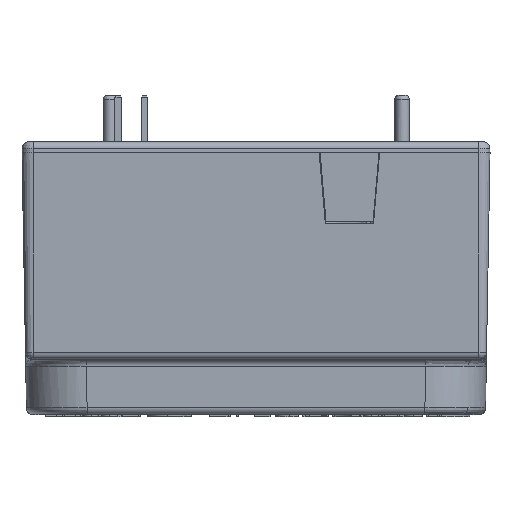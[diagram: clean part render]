
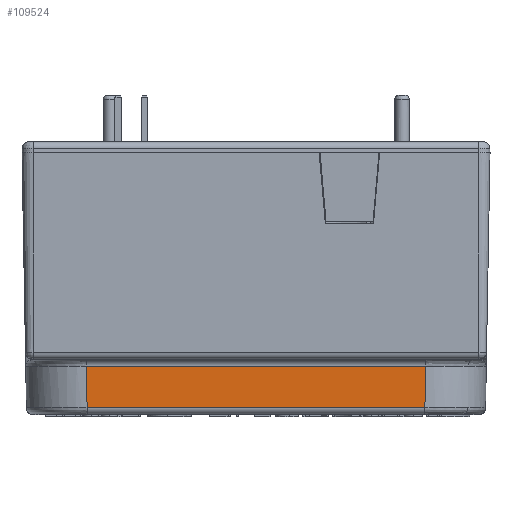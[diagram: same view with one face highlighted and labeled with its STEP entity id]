
A CAD part, top view. The second image highlights one B-rep face of the part: STEP entity #109524.
In plain terms, the highlighted planar face has unit normal (0, -0.018, 1).
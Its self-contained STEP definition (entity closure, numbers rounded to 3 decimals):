
#57246 = CYLINDRICAL_SURFACE('',#57247,4.4);
#57247 = AXIS2_PLACEMENT_3D('',#57248,#57249,#57250);
#57248 = CARTESIAN_POINT('',(12.424,15.059,
    45.861));
#57249 = DIRECTION('',(0.017,-1.,
    -0.017));
#57250 = DIRECTION('',(0.,0.017,
    -1.));
#57593 = CYLINDRICAL_SURFACE('',#57594,0.5);
#57594 = AXIS2_PLACEMENT_3D('',#57595,#57596,#57597);
#57595 = CARTESIAN_POINT('',(7.765,14.401,
    50.75));
#57596 = DIRECTION('',(1.,0.,0.));
#57597 = DIRECTION('',(0.,0.,-1.));
#59695 = CYLINDRICAL_SURFACE('',#59696,4.4);
#59696 = AXIS2_PLACEMENT_3D('',#59697,#59698,#59699);
#59697 = CARTESIAN_POINT('',(37.036,14.467,
    45.85));
#59698 = DIRECTION('',(0.017,1.,
    0.017));
#59699 = DIRECTION('',(-1.,0.017,
    0.));
#64732 = CYLINDRICAL_SURFACE('',#64733,0.5);
#64733 = AXIS2_PLACEMENT_3D('',#64734,#64735,#64736);
#64734 = CARTESIAN_POINT('',(7.765,11.431,
    49.698));
#64735 = DIRECTION('',(1.,0.,0.));
#64736 = DIRECTION('',(0.,0.,-1.));
#87467 = EDGE_CURVE('',#87468,#87470,#87472,.T.);
#87468 = VERTEX_POINT('',#87469);
#87469 = CARTESIAN_POINT('',(12.434,14.409,
    50.25));
#87470 = VERTEX_POINT('',#87471);
#87471 = CARTESIAN_POINT('',(12.487,11.422,
    50.198));
#87472 = SURFACE_CURVE('',#87473,(#87477,#87484),.PCURVE_S1.);
#87473 = LINE('',#87474,#87475);
#87474 = CARTESIAN_POINT('',(12.494,11.008,
    50.191));
#87475 = VECTOR('',#87476,1.);
#87476 = DIRECTION('',(0.017,-1.,
    -0.017));
#87477 = PCURVE('',#57246,#87478);
#87478 = DEFINITIONAL_REPRESENTATION('',(#87479),#87483);
#87479 = LINE('',#87480,#87481);
#87480 = CARTESIAN_POINT('',(3.142,3.976));
#87481 = VECTOR('',#87482,1.);
#87482 = DIRECTION('',(0.,1.));
#87483 = ( GEOMETRIC_REPRESENTATION_CONTEXT(2) 
PARAMETRIC_REPRESENTATION_CONTEXT() REPRESENTATION_CONTEXT('2D SPACE',''
  ) );
#87484 = PCURVE('',#87485,#87490);
#87485 = PLANE('',#87486);
#87486 = AXIS2_PLACEMENT_3D('',#87487,#87488,#87489);
#87487 = CARTESIAN_POINT('',(7.765,14.901,
    50.258));
#87488 = DIRECTION('',(0.,-0.017,1.));
#87489 = DIRECTION('',(0.,-1.,-0.017));
#87490 = DEFINITIONAL_REPRESENTATION('',(#87491),#87495);
#87491 = LINE('',#87492,#87493);
#87492 = CARTESIAN_POINT('',(3.894,4.728));
#87493 = VECTOR('',#87494,1.);
#87494 = DIRECTION('',(1.,0.017));
#87495 = ( GEOMETRIC_REPRESENTATION_CONTEXT(2) 
PARAMETRIC_REPRESENTATION_CONTEXT() REPRESENTATION_CONTEXT('2D SPACE',''
  ) );
#87788 = VERTEX_POINT('',#87789);
#87789 = CARTESIAN_POINT('',(37.036,14.409,
    50.25));
#87833 = EDGE_CURVE('',#87788,#87468,#87834,.T.);
#87834 = SURFACE_CURVE('',#87835,(#87839,#87846),.PCURVE_S1.);
#87835 = LINE('',#87836,#87837);
#87836 = CARTESIAN_POINT('',(12.426,14.409,
    50.25));
#87837 = VECTOR('',#87838,1.);
#87838 = DIRECTION('',(-1.,0.,0.));
#87839 = PCURVE('',#57593,#87840);
#87840 = DEFINITIONAL_REPRESENTATION('',(#87841),#87845);
#87841 = LINE('',#87842,#87843);
#87842 = CARTESIAN_POINT('',(0.017,4.66));
#87843 = VECTOR('',#87844,1.);
#87844 = DIRECTION('',(0.,-1.));
#87845 = ( GEOMETRIC_REPRESENTATION_CONTEXT(2) 
PARAMETRIC_REPRESENTATION_CONTEXT() REPRESENTATION_CONTEXT('2D SPACE',''
  ) );
#87846 = PCURVE('',#87485,#87847);
#87847 = DEFINITIONAL_REPRESENTATION('',(#87848),#87852);
#87848 = LINE('',#87849,#87850);
#87849 = CARTESIAN_POINT('',(0.491,4.66));
#87850 = VECTOR('',#87851,1.);
#87851 = DIRECTION('',(-0.,-1.));
#87852 = ( GEOMETRIC_REPRESENTATION_CONTEXT(2) 
PARAMETRIC_REPRESENTATION_CONTEXT() REPRESENTATION_CONTEXT('2D SPACE',''
  ) );
#89622 = EDGE_CURVE('',#89623,#87788,#89625,.T.);
#89623 = VERTEX_POINT('',#89624);
#89624 = CARTESIAN_POINT('',(36.984,11.422,
    50.198));
#89625 = SURFACE_CURVE('',#89626,(#89630,#89637),.PCURVE_S1.);
#89626 = LINE('',#89627,#89628);
#89627 = CARTESIAN_POINT('',(37.046,14.978,
    50.26));
#89628 = VECTOR('',#89629,1.);
#89629 = DIRECTION('',(0.017,1.,
    0.017));
#89630 = PCURVE('',#59695,#89631);
#89631 = DEFINITIONAL_REPRESENTATION('',(#89632),#89636);
#89632 = LINE('',#89633,#89634);
#89633 = CARTESIAN_POINT('',(1.571,0.588));
#89634 = VECTOR('',#89635,1.);
#89635 = DIRECTION('',(0.,1.));
#89636 = ( GEOMETRIC_REPRESENTATION_CONTEXT(2) 
PARAMETRIC_REPRESENTATION_CONTEXT() REPRESENTATION_CONTEXT('2D SPACE',''
  ) );
#89637 = PCURVE('',#87485,#89638);
#89638 = DEFINITIONAL_REPRESENTATION('',(#89639),#89643);
#89639 = LINE('',#89640,#89641);
#89640 = CARTESIAN_POINT('',(-0.077,29.281));
#89641 = VECTOR('',#89642,1.);
#89642 = DIRECTION('',(-1.,0.017));
#89643 = ( GEOMETRIC_REPRESENTATION_CONTEXT(2) 
PARAMETRIC_REPRESENTATION_CONTEXT() REPRESENTATION_CONTEXT('2D SPACE',''
  ) );
#93374 = EDGE_CURVE('',#87470,#89623,#93375,.T.);
#93375 = SURFACE_CURVE('',#93376,(#93380,#93387),.PCURVE_S1.);
#93376 = LINE('',#93377,#93378);
#93377 = CARTESIAN_POINT('',(7.765,11.422,
    50.198));
#93378 = VECTOR('',#93379,1.);
#93379 = DIRECTION('',(1.,0.,0.));
#93380 = PCURVE('',#64732,#93381);
#93381 = DEFINITIONAL_REPRESENTATION('',(#93382),#93386);
#93382 = LINE('',#93383,#93384);
#93383 = CARTESIAN_POINT('',(3.159,0.));
#93384 = VECTOR('',#93385,1.);
#93385 = DIRECTION('',(0.,1.));
#93386 = ( GEOMETRIC_REPRESENTATION_CONTEXT(2) 
PARAMETRIC_REPRESENTATION_CONTEXT() REPRESENTATION_CONTEXT('2D SPACE',''
  ) );
#93387 = PCURVE('',#87485,#93388);
#93388 = DEFINITIONAL_REPRESENTATION('',(#93389),#93393);
#93389 = LINE('',#93390,#93391);
#93390 = CARTESIAN_POINT('',(3.479,0.));
#93391 = VECTOR('',#93392,1.);
#93392 = DIRECTION('',(0.,1.));
#93393 = ( GEOMETRIC_REPRESENTATION_CONTEXT(2) 
PARAMETRIC_REPRESENTATION_CONTEXT() REPRESENTATION_CONTEXT('2D SPACE',''
  ) );
#109524 = ADVANCED_FACE('',(#109525),#87485,.T.);
#109525 = FACE_BOUND('',#109526,.T.);
#109526 = EDGE_LOOP('',(#109527,#109528,#109529,#109530));
#109527 = ORIENTED_EDGE('',*,*,#89622,.T.);
#109528 = ORIENTED_EDGE('',*,*,#87833,.T.);
#109529 = ORIENTED_EDGE('',*,*,#87467,.T.);
#109530 = ORIENTED_EDGE('',*,*,#93374,.T.);
